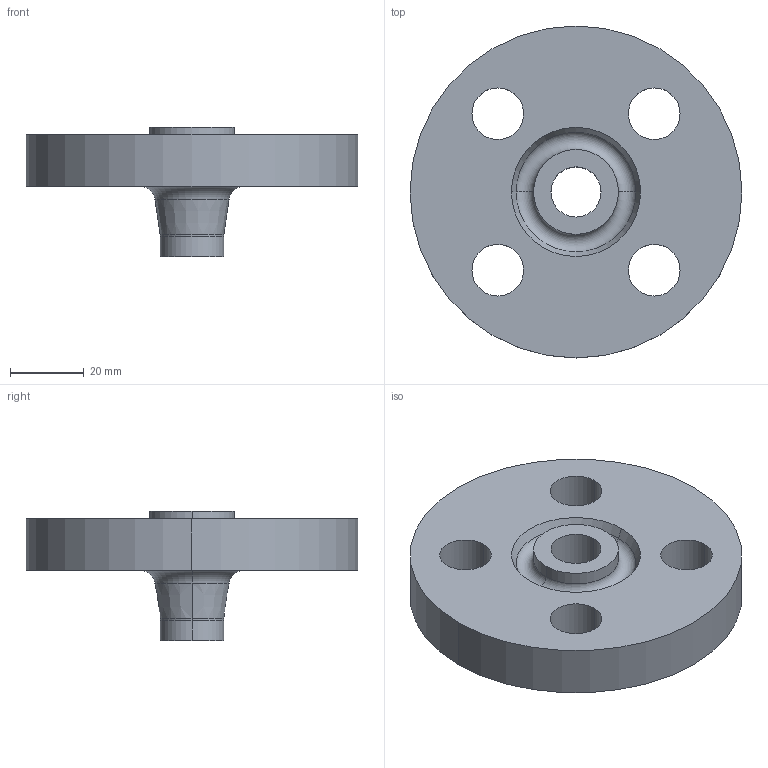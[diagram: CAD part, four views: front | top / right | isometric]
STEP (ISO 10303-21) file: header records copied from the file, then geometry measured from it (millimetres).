
FILE_DESCRIPTION (( 'STEP AP214' ), '1' );
FILE_NAME ('PN40 DN10 Type 11 - Type H Face.STEP', '2018-12-29T05:10:32', ( '' ), ( '' ), 'SwSTEP 2.0', 'SolidWorks 2019', '' );
FILE_SCHEMA (( 'AUTOMOTIVE_DESIGN' ));
Length unit declared in the file: millimetre
Products named in the file (1): PN40 DN10 Type 11 - Type H Face
Bounding box: 90 x 90 x 35 mm (x, y, z)
Volume: 79889.9 mm3; surface area: 20628.8 mm2
Topology: 1 solids, 1 shells, 30 faces, 68 edges, 42 vertices
Faces by surface type: cylinder 16, torus 6, cone 4, plane 4
Entity records: 914 total; most frequent: DIRECTION 178, CARTESIAN_POINT 141, ORIENTED_EDGE 136, AXIS2_PLACEMENT_3D 79, EDGE_CURVE 68, CIRCLE 48, VERTEX_POINT 42, EDGE_LOOP 42
